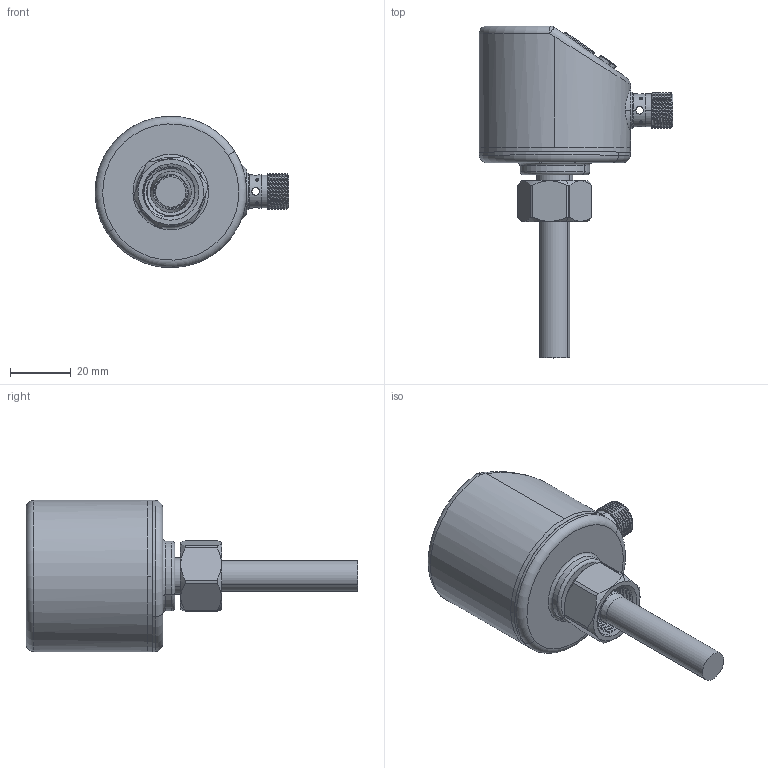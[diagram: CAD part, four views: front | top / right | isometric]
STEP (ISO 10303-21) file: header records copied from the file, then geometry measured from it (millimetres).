
FILE_DESCRIPTION (( 'STEP AP214' ), '1' );
FILE_NAME ('BFT2P80.STEP', '2025-10-21T02:09:27', ( '' ), ( '' ), 'SwSTEP 2.0', 'SolidWorks 2025', '' );
FILE_SCHEMA (( 'AUTOMOTIVE_DESIGN' ));
Length unit declared in the file: millimetre
Products named in the file (12): __________-0_热式流量传感器（内螺纹M18）(2)_热式流量传感器（内螺纹M18）_1.STEP; _________热式流量传感器（内螺纹M18）(2)_热式流量传感器（内螺纹M18）_1.STEP; _____热式流量传感器（内螺纹M18）(2)_热式流量传感器（内螺纹M18）_1.STEP; 热式流量传感器（内螺纹M18）(2)_热式流量传感器（内螺纹M18）_1.STEP; _______热式流量传感器（内螺纹M18）(2)_热式流量传感器（内螺纹M18）_1.STEP; FL____02-25______热式流量传感器（内螺纹M18）(2)_热式流量传感器（内螺纹M18）_1.STEP; BFT2D8D-45.STEP; ____________1_热式流量传感器（内螺纹M18）(2)_热式流量传感器（内螺纹M18）_1.STEP; BFT2P80; __________G1-4_热式流量传感器（内螺纹M18）(2)_热式流量传感器（内螺纹M18）_1.STEP; PVC_______热式流量传感器（内螺纹M18）(2)_热式流量传感器（内螺纹M18）_1.STEP; ________________热式流量传感器（内螺纹M18）(2)_热式流量传感器（内螺纹M18）_1.STEP
Assembly tree (13 placements, depth 5):
  BFT2P80
    BFT2D8D-45.STEP
      热式流量传感器（内螺纹M18）(2)_热式流量传感器（内螺纹M18）_1.STEP
        _____热式流量传感器（内螺纹M18）(2)_热式流量传感器（内螺纹M18）_1.STEP
          FL____02-25______热式流量传感器（内螺纹M18）(2)_热式流量传感器（内螺纹M18）_1.STEP
          ________________热式流量传感器（内螺纹M18）(2)_热式流量传感器（内螺纹M18）_1.STEP
        _________热式流量传感器（内螺纹M18）(2)_热式流量传感器（内螺纹M18）_1.STEP
        __________-0_热式流量传感器（内螺纹M18）(2)_热式流量传感器（内螺纹M18）_1.STEP
        ____________1_热式流量传感器（内螺纹M18）(2)_热式流量传感器（内螺纹M18）_1.STEP
        _______热式流量传感器（内螺纹M18）(2)_热式流量传感器（内螺纹M18）_1.STEP  x3
        PVC_______热式流量传感器（内螺纹M18）(2)_热式流量传感器（内螺纹M18）_1.STEP
        __________G1-4_热式流量传感器（内螺纹M18）(2)_热式流量传感器（内螺纹M18）_1.STEP
Bounding box: 64 x 109.6 x 50 mm (x, y, z)
Volume: 23683.9 mm3; surface area: 32936.8 mm2
Topology: 10 solids, 10 shells, 449 faces, 1057 edges, 660 vertices
Faces by surface type: cylinder 205, plane 125, cone 79, torus 22, bspline 14, sphere 4
Entity records: 17608 total; most frequent: CARTESIAN_POINT 7684, DIRECTION 2085, ORIENTED_EDGE 1958, EDGE_CURVE 979, AXIS2_PLACEMENT_3D 826, VERTEX_POINT 618, EDGE_LOOP 481, VECTOR 433
